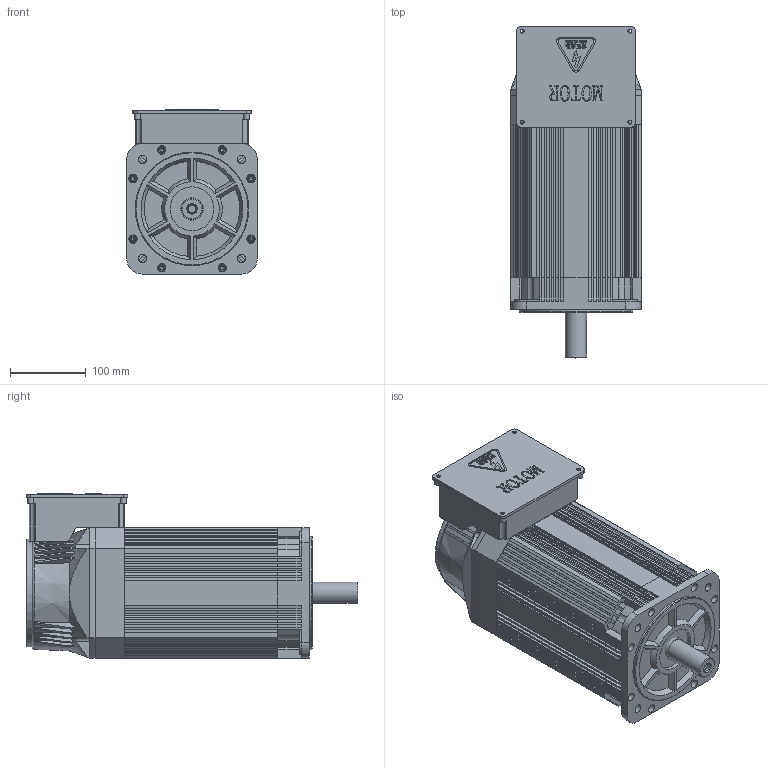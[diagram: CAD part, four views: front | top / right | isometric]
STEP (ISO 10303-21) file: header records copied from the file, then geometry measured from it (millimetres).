
FILE_DESCRIPTION(/* description */ (''),/* implementation_level */ '2;1');
FILE_NAME(/* name */ '172ZJY-4-5.5-15.stp',/* time_stamp */ '2024-01-15T11:19:23+08:00',/* author */ (''),/* organization */ (''),/* preprocessor_version */ 'ST-DEVELOPER v18.1',/* originating_system */ 'SIEMENS PLM Software NX 2000',/* authorisation */ '');
FILE_SCHEMA (('AUTOMOTIVE_DESIGN { 1 0 10303 214 3 1 1 1 }'));
Products named in the file (1): 172主轴伺服电机 加脚
Bounding box: 172 x 438 x 216.5 mm (x, y, z)
Volume: 8525654.7 mm3; surface area: 867844.4 mm2
Topology: 15 solids, 15 shells, 2287 faces, 6264 edges, 4123 vertices
Faces by surface type: plane 1338, extrusion 442, cylinder 382, cone 108, torus 17
Full cylindrical faces by diameter (mm): 4.5 x4, 5 x8, 5.3 x8, 5.795 x8, 6 x4, 7 x8, 8 x4, 10 x9, 11 x12, 12 x2, 26 x1, 28 x1, 30 x1, 58 x1, 137 x1, 150 x1
Entity records: 77153 total; most frequent: CARTESIAN_POINT 22032, ORIENTED_EDGE 12192, DIRECTION 9492, EDGE_CURVE 6096, VERTEX_POINT 4078, VECTOR 3764, LINE 3322, AXIS2_PLACEMENT_3D 2864
